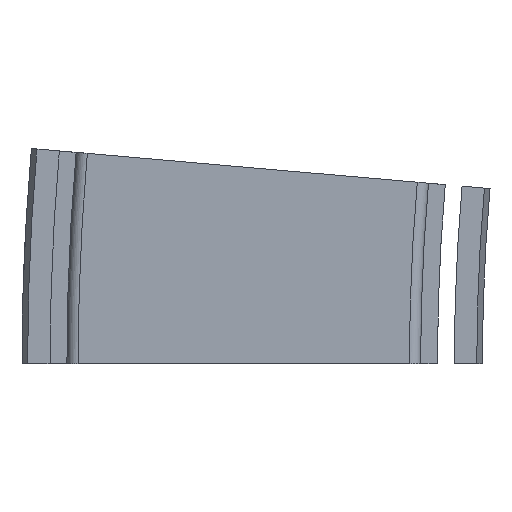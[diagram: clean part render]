
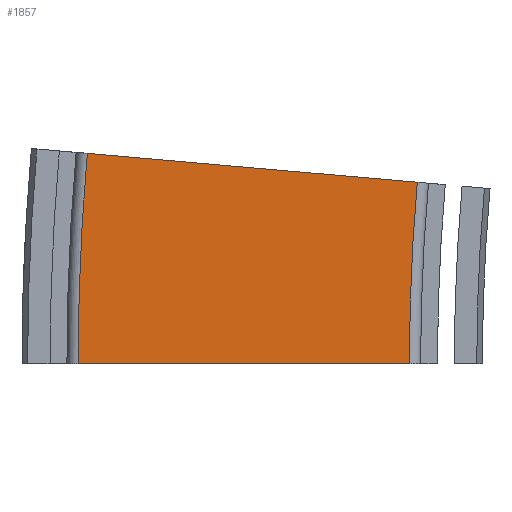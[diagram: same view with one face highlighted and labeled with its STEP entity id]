
A CAD part, left-side view. The second image highlights one B-rep face of the part: STEP entity #1857.
In plain terms, the highlighted planar face has unit normal (-1, 0, 0).
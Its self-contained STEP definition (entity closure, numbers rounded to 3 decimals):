
#1797=CARTESIAN_POINT('',(-34.,-62.41,32.291));
#1798=VERTEX_POINT('',#1797);
#1806=CARTESIAN_POINT('',(-34.,-61.,0.0));
#1807=VERTEX_POINT('',#1806);
#1808=CARTESIAN_POINT('',(-34.,-431.5,0.));
#1809=DIRECTION('',(1.0,0.0,0.0));
#1810=DIRECTION('',(0.0,1.0,0.0));
#1811=AXIS2_PLACEMENT_3D('',#1808,#1809,#1810);
#1812=CIRCLE('',#1811,370.5);
#1813=EDGE_CURVE('',#1807,#1798,#1812,.T.);
#1826=CARTESIAN_POINT('',(-34.,-31.5,0.0));
#1827=DIRECTION('',(-1.0,0.0,0.0));
#1828=DIRECTION('',(0.0,0.0,1.0));
#1829=AXIS2_PLACEMENT_3D('',#1826,#1827,#1828);
#1830=PLANE('',#1829);
#1831=CARTESIAN_POINT('',(-34.,-3.634,37.433));
#1832=VERTEX_POINT('',#1831);
#1833=CARTESIAN_POINT('',(-34.,-62.41,32.291));
#1834=DIRECTION('',(0.,0.996,0.087));
#1835=VECTOR('',#1834,59.);
#1836=LINE('',#1833,#1835);
#1837=EDGE_CURVE('',#1798,#1832,#1836,.T.);
#1838=ORIENTED_EDGE('',*,*,#1837,.T.);
#1839=CARTESIAN_POINT('',(-34.,-2.,0.0));
#1840=VERTEX_POINT('',#1839);
#1841=CARTESIAN_POINT('',(-34.,-431.5,0.));
#1842=DIRECTION('',(1.0,0.0,0.0));
#1843=DIRECTION('',(0.0,1.0,0.0));
#1844=AXIS2_PLACEMENT_3D('',#1841,#1842,#1843);
#1845=CIRCLE('',#1844,429.5);
#1846=EDGE_CURVE('',#1840,#1832,#1845,.T.);
#1847=ORIENTED_EDGE('',*,*,#1846,.F.);
#1848=CARTESIAN_POINT('',(-34.,-2.,0.0));
#1849=DIRECTION('',(0.0,-1.0,0.0));
#1850=VECTOR('',#1849,59.);
#1851=LINE('',#1848,#1850);
#1852=EDGE_CURVE('',#1840,#1807,#1851,.T.);
#1853=ORIENTED_EDGE('',*,*,#1852,.T.);
#1854=ORIENTED_EDGE('',*,*,#1813,.T.);
#1855=EDGE_LOOP('',(#1838,#1847,#1853,#1854));
#1856=FACE_OUTER_BOUND('',#1855,.T.);
#1857=ADVANCED_FACE('',(#1856),#1830,.T.);
